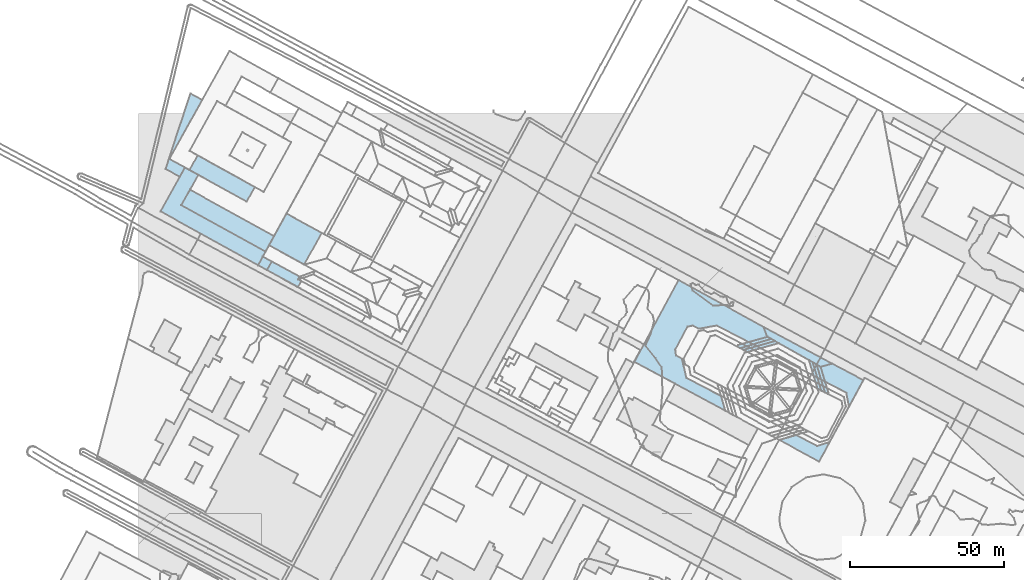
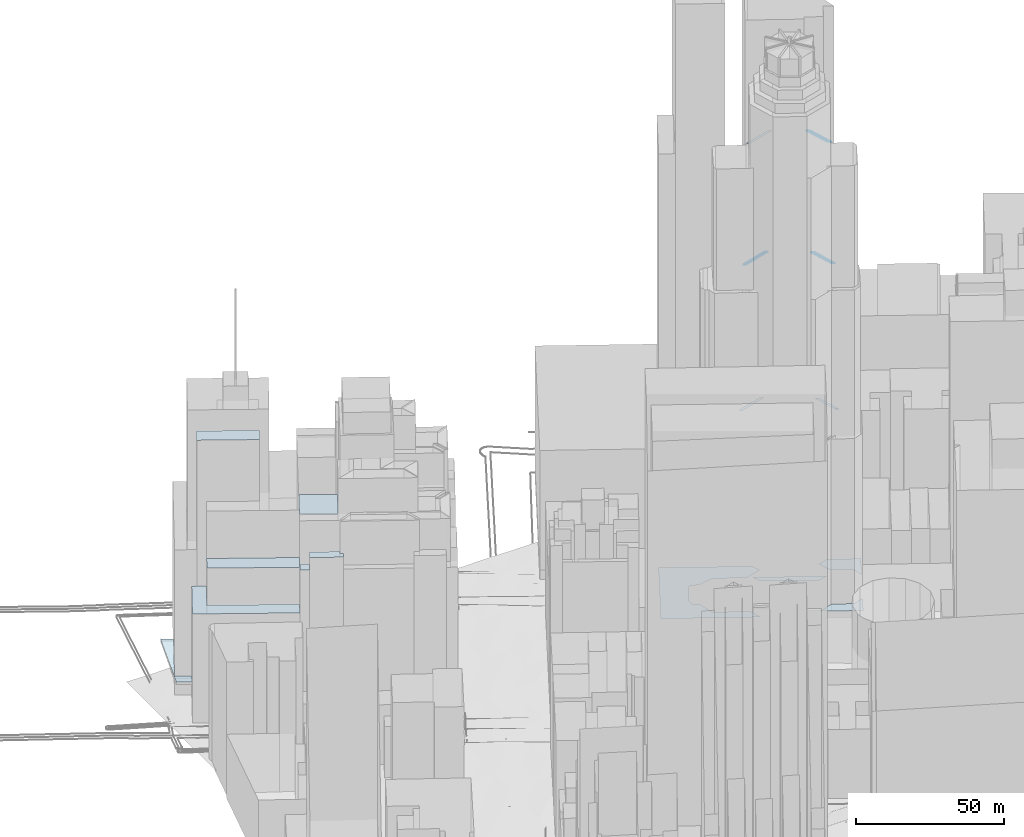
# Not in any storey, part 39 of 76: 17 roofs.
"""IFC2X3 model written with IfcOpenShell, lengths in metres."""

from ifc_helpers import new_model, si_unit, frame, origin_with_axes, place, context, subcontext, project, faceted_brep, element, save


model = new_model("IFC2X3")

# Units and contexts
model_context = context("Model", 3, precision=1e-05, world=origin_with_axes())
body_context = subcontext(model_context, "Body", "Model", "MODEL_VIEW")
ifc_project = project(units=[si_unit("AREAUNIT", "SQUARE_METRE"), si_unit("LENGTHUNIT", "METRE")], contexts=[model_context])

# Roofs
roof_1_placement = place(None, frame((161.19127827, 298.8014028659, 19.4608547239), z_axis=(0.0, 0.0, 1.0), x_axis=(1.0, 0.0, 0.0)))
element("IfcRoof", 1, at=roof_1_placement, Name="Toiture 0", ShapeType="NOTDEFINED", context=body_context, shape_type="Brep", body=[
    faceted_brep([(0.0, 0.0, 22.0), (29.637602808, -15.9646779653, 22.0), (28.2733478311, -11.1621604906, 22.0), (16.9696826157, -5.2983587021, 22.0), (15.5294506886, 0.9576732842, 22.0), (13.5836021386, 2.0563807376, 22.0), (18.9830601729, 11.7559095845, 22.0), (20.8772332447, 10.7454208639, 22.0), (26.7655958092, 11.7908792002, 22.0), (37.1350091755, 6.4158307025, 22.0), (43.2518253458, 8.1411963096, 22.0), (42.0671637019, 11.2915635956, 22.0), (14.3795340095, 26.5350073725, 22.0), (13.3239184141, 4.0628703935, 22.0), (17.2729201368, 11.4584719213, 22.0)], [[[0, 1, 2]], [[3, 4, 5]], [[6, 7, 8]], [[8, 9, 10]], [[10, 11, 12]], [[0, 2, 3]], [[8, 10, 12]], [[0, 3, 5]], [[6, 8, 12]], [[0, 5, 13]], [[14, 6, 12]], [[12, 0, 13]], [[13, 14, 12]]]),
])
roof_2_placement = place(None, frame((203.2584419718, 310.0929664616, 21.9404542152), z_axis=(0.0, 0.0, 1.0), x_axis=(1.0, 0.0, 0.0)))
element("IfcRoof", 2, at=roof_2_placement, Name="Toiture 0", ShapeType="NOTDEFINED", context=body_context, shape_type="Brep", body=[
    faceted_brep([(22.221026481, -11.8985374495, 15.0), (0.0, 0.0, 15.0), (1.1846616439, -3.1503672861, 15.0), (18.5101123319, -12.9075972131, 15.0)], [[[0, 1, 2]], [[2, 3, 0]]]),
])
roof_3_placement = place(None, frame((219.2364479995, 298.6103141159, 22.0370250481), z_axis=(0.0, 0.0, 1.0), x_axis=(1.0, 0.0, 0.0)))
element("IfcRoof", 3, at=roof_3_placement, Name="Toiture 0", ShapeType="NOTDEFINED", context=body_context, shape_type="Brep", body=[
    faceted_brep([(1.2661175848, -0.7180229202, 150.0), (0.0, 0.0, 150.0), (2.8171290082, -9.2376195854, 150.0), (4.0061240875, -9.8566187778, 150.0)], [[[0, 1, 2]], [[2, 3, 0]]]),
])
roof_4_placement = place(None, frame((220.5025655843, 297.8922911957, 22.020281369), z_axis=(0.0, 0.0, 1.0), x_axis=(1.0, 0.0, 0.0)))
element("IfcRoof", 4, at=roof_4_placement, Name="Toiture 0", ShapeType="NOTDEFINED", context=body_context, shape_type="Brep", body=[
    faceted_brep([(1.2659887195, -0.7069219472, 90.0), (0.0, 0.0, 90.0), (2.7400065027, -9.1385958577, 90.0), (3.6317852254, -9.6056203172, 90.0), (3.8550238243, -9.20334242, 90.0)], [[[0, 1, 2]], [[2, 3, 4]], [[4, 0, 2]]]),
])
roof_5_placement = place(None, frame((221.7685543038, 297.1853692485, 21.8040198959), z_axis=(0.0, 0.0, 1.0), x_axis=(1.0, 0.0, 0.0)))
element("IfcRoof", 5, at=roof_5_placement, Name="Toiture 0", ShapeType="NOTDEFINED", context=body_context, shape_type="Brep", body=[
    faceted_brep([(3.7109141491, 1.0090597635, 22.0), (0.0, 0.0, 22.0), (1.4921694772, -4.9120468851, 22.0), (8.354244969, -8.4737691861, 22.0), (9.2151276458, -12.8158404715, 22.0), (13.843917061, -4.3575852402, 22.0)], [[[0, 1, 2]], [[3, 4, 5]], [[5, 0, 2]], [[2, 3, 5]]]),
])
roof_6_placement = place(None, frame((208.2008787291, 273.4352760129, 21.5056877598), z_axis=(0.0, 0.0, 1.0), x_axis=(1.0, 0.0, 0.0)))
element("IfcRoof", 6, at=roof_6_placement, Name="Toiture 0", ShapeType="NOTDEFINED", context=body_context, shape_type="Brep", body=[
    faceted_brep([(5.6462511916, 1.5422641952, 22.0), (0.0, 0.0, 22.0), (13.0821989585, -7.0865241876, 22.0), (16.451848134, -0.6857371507, 22.0), (12.4573086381, -1.9867536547, 22.0)], [[[0, 1, 2]], [[2, 3, 4]], [[4, 0, 2]]]),
])
roof_7_placement = place(None, frame((217.9703306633, 299.3283372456, 22.0589444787), z_axis=(0.0, 0.0, 1.0), x_axis=(1.0, 0.0, 0.0)))
element("IfcRoof", 7, at=roof_7_placement, Name="Toiture 0", ShapeType="NOTDEFINED", context=body_context, shape_type="Brep", body=[
    faceted_brep([(1.2661173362, -0.7180231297, 200.0), (0.0, 0.0, 200.0), (2.8432226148, -9.3039300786, 200.0), (4.0832463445, -9.9556427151, 200.0)], [[[0, 1, 2]], [[2, 3, 0]]]),
])
roof_8_placement = place(None, frame((41.7800097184, 328.5784664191, 23.4010795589), z_axis=(0.0, 0.0, 1.0), x_axis=(1.0, 0.0, 0.0)))
element("IfcRoof", 8, at=roof_8_placement, Name="Toiture 0", ShapeType="NOTDEFINED", context=body_context, shape_type="Brep", body=[
    faceted_brep([(1.5539020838, 2.8491104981, 67.0), (0.0, 0.0, 67.0), (10.0500953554, -5.5121834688, 67.0), (11.1329543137, -3.534514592, 67.0), (10.1390067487, -2.9909401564, 67.0), (10.6265412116, -2.085998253, 67.0)], [[[0, 1, 2]], [[2, 3, 4]], [[4, 5, 0]], [[0, 2, 4]]]),
])
roof_9_placement = place(None, frame((194.6888328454, 303.6983377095, 22.4164949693), z_axis=(0.0, 0.0, 1.0), x_axis=(1.0, 0.0, 0.0)))
element("IfcRoof", 9, at=roof_9_placement, Name="Toiture 0", ShapeType="NOTDEFINED", context=body_context, shape_type="Brep", body=[
    faceted_brep([(0.3055768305, 0.5808705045, 90.0), (0.0, 0.0, 90.0), (0.8833348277, -0.4671259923, 90.0), (10.9779261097, 2.547946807, 90.0), (9.7542707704, 3.244261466, 90.0)], [[[0, 1, 2]], [[2, 3, 4]], [[4, 0, 2]]]),
])
roof_10_placement = place(None, frame((195.5721676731, 303.2312117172, 22.3534216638), z_axis=(0.0, 0.0, 1.0), x_axis=(1.0, 0.0, 0.0)))
element("IfcRoof", 10, at=roof_10_placement, Name="Toiture 0", ShapeType="NOTDEFINED", context=body_context, shape_type="Brep", body=[
    faceted_brep([(10.094591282, 3.0150727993, 150.0), (0.0, 0.0, 150.0), (1.0701818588, -0.5648735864, 150.0), (11.3265579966, 2.3299572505, 150.0)], [[[0, 1, 2]], [[2, 3, 0]]]),
])
roof_11_placement = place(None, frame((196.642349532, 302.6663381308, 22.285008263), z_axis=(0.0, 0.0, 1.0), x_axis=(1.0, 0.0, 0.0)))
element("IfcRoof", 11, at=roof_11_placement, Name="Toiture 0", ShapeType="NOTDEFINED", context=body_context, shape_type="Brep", body=[
    faceted_brep([(10.2563761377, 2.8948308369, 200.0), (0.0, 0.0, 200.0), (1.290919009, -0.6733292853, 200.0), (11.4462710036, 2.1981239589, 200.0)], [[[0, 1, 2]], [[2, 3, 0]]]),
])
roof_12_placement = place(None, frame((42.4543960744, 336.6576310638, 22.8602980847), z_axis=(0.0, 0.0, 1.0), x_axis=(1.0, 0.0, 0.0)))
element("IfcRoof", 12, at=roof_12_placement, Name="Toiture 0", ShapeType="NOTDEFINED", context=body_context, shape_type="Brep", body=[
    faceted_brep([(5.6710397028, 10.3132053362, 80.0), (0.0, 0.0, 80.0), (11.4264184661, -6.2733628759, 80.0), (17.1228970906, 4.0290444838, 80.0)], [[[0, 1, 2]], [[2, 3, 0]]]),
])
roof_13_placement = place(None, frame((7.1766328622, 347.6946620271, 22.6847044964), z_axis=(0.0, 0.0, 1.0), x_axis=(1.0, 0.0, 0.0)))
element("IfcRoof", 13, at=roof_13_placement, Name="Toiture 0", ShapeType="NOTDEFINED", context=body_context, shape_type="Brep", body=[
    faceted_brep([(0.0, 0.0, 45.0), (31.7064559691, -17.5288908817, 45.0), (34.1368527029, -13.1041901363, 45.0), (6.7972554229, 2.0106592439, 45.0), (12.2796097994, 11.8553581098, 45.0), (7.9382167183, 14.2585789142, 45.0)], [[[0, 1, 2]], [[3, 4, 5]], [[0, 2, 3]], [[3, 5, 0]]]),
])
roof_14_placement = place(None, frame((16.6101084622, 361.1268202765, 22.7114009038), z_axis=(0.0, 0.0, 1.0), x_axis=(1.0, 0.0, 0.0)))
element("IfcRoof", 14, at=roof_14_placement, Name="Toiture 0", ShapeType="NOTDEFINED", context=body_context, shape_type="Brep", body=[
    faceted_brep([(2.6544189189, 4.7603606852, 105.0), (0.0, 0.0, 105.0), (18.5802692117, -10.2649021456, 105.0), (21.23480915, -5.5156355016, 105.0)], [[[0, 1, 2]], [[2, 3, 0]]]),
])
roof_15_placement = place(None, frame((13.9738882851, 349.705321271, 22.9265770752), z_axis=(0.0, 0.0, 1.0), x_axis=(1.0, 0.0, 0.0)))
element("IfcRoof", 15, at=roof_15_placement, Name="Toiture 0", ShapeType="NOTDEFINED", context=body_context, shape_type="Brep", body=[
    faceted_brep([(2.7949453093, 5.0173419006, 60.0), (0.0, 0.0, 60.0), (27.33959728, -15.1148493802, 60.0), (30.1006408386, -10.0867881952, 60.0)], [[[0, 1, 2]], [[2, 3, 0]]]),
])
roof_16_placement = place(None, frame((8.8487001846, 361.4586486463, 29.7839697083), z_axis=(0.0, 0.0, 1.0), x_axis=(1.0, 0.0, 0.0)))
element("IfcRoof", 16, at=roof_16_placement, Name="Toiture 0", ShapeType="NOTDEFINED", context=body_context, shape_type="Brep", body=[
    faceted_brep([(0.0, 0.0, 1.0), (4.5875730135, -2.5224926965, 1.0), (6.2661493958, 0.494592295, 1.0), (1.2195887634, 3.2893146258, 1.0), (11.8949184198, 22.4535480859, 1.0), (8.0632962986, 24.5740246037, 1.0)], [[[0, 1, 2]], [[3, 4, 5]], [[0, 2, 3]], [[3, 5, 0]]]),
])
roof_17_placement = place(None, frame((38.8830888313, 330.1657711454, 23.374337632), z_axis=(0.0, 0.0, 1.0), x_axis=(1.0, 0.0, 0.0)))
element("IfcRoof", 17, at=roof_17_placement, Name="Toiture 0", ShapeType="NOTDEFINED", context=body_context, shape_type="Brep", body=[
    faceted_brep([(1.5541605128, 2.8269083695, 62.0), (0.0, 0.0, 62.0), (2.8969208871, -1.5873047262, 62.0), (4.4508229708, 1.2618057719, 62.0)], [[[0, 1, 2]], [[2, 3, 0]]]),
])

save(model, "model.ifc")
